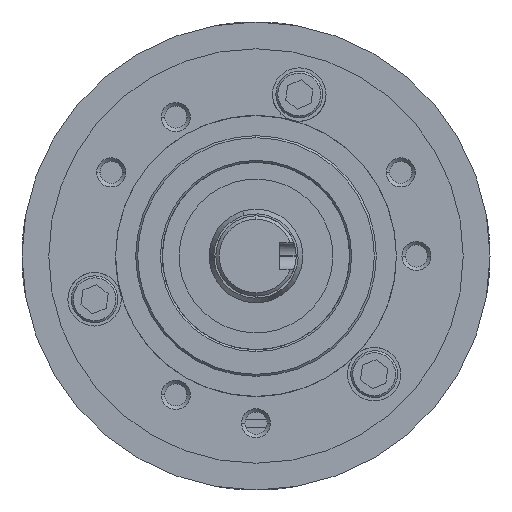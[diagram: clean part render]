
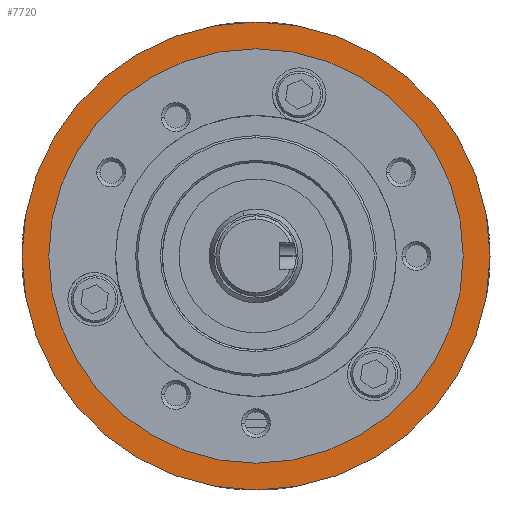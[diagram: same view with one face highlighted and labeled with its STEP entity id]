
A CAD part, left-side view. The second image highlights one B-rep face of the part: STEP entity #7720.
In plain terms, the highlighted planar face has unit normal (-1, 0, 0).
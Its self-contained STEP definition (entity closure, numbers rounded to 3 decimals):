
#2390 = CARTESIAN_POINT ( 'NONE',  ( 4., -119.215, 268.191 ) ) ;
#2829 = CARTESIAN_POINT ( 'NONE',  ( 4., -123.215, 268.191 ) ) ;
#2830 = DIRECTION ( 'NONE',  ( 0., -1., 0. ) ) ;
#2831 = DIRECTION ( 'NONE',  ( 1., 0., 0. ) ) ;
#2832 = CARTESIAN_POINT ( 'NONE',  ( 4., -88.215, 268.191 ) ) ;
#2833 = AXIS2_PLACEMENT_3D ( 'NONE', #2832, #2831, #2830 ) ;
#2838 = CIRCLE ( 'NONE', #2833, 35. ) ;
#2872 = CARTESIAN_POINT ( 'NONE',  ( 4., -53.215, 268.191 ) ) ;
#2879 = CARTESIAN_POINT ( 'NONE',  ( 4., -57.215, 268.191 ) ) ;
#2913 = CIRCLE ( 'NONE', #2973, 31. ) ;
#2970 = DIRECTION ( 'NONE',  ( 0., -1., 0. ) ) ;
#2971 = DIRECTION ( 'NONE',  ( 1., 0., 0. ) ) ;
#2972 = CARTESIAN_POINT ( 'NONE',  ( 4., -88.215, 268.191 ) ) ;
#2973 = AXIS2_PLACEMENT_3D ( 'NONE', #2972, #2971, #2970 ) ;
#5890 = FACE_BOUND ( 'NONE', #7728, .T. ) ;
#5894 = FACE_OUTER_BOUND ( 'NONE', #7726, .T. ) ;
#5898 = AXIS2_PLACEMENT_3D ( 'NONE', #5943, #5956, #5955 ) ;
#5900 = PLANE ( 'NONE',  #5898 ) ;
#5943 = CARTESIAN_POINT ( 'NONE',  ( 4., -88.215, 299.191 ) ) ;
#5945 = CARTESIAN_POINT ( 'NONE',  ( 4., -88.215, 268.191 ) ) ;
#5955 = DIRECTION ( 'NONE',  ( 0., -1., 0. ) ) ;
#5956 = DIRECTION ( 'NONE',  ( 1., 0., 0. ) ) ;
#5981 = DIRECTION ( 'NONE',  ( 0., -1., 0. ) ) ;
#5982 = DIRECTION ( 'NONE',  ( 1., 0., 0. ) ) ;
#5983 = AXIS2_PLACEMENT_3D ( 'NONE', #5945, #5982, #5981 ) ;
#5984 = CIRCLE ( 'NONE', #5983, 31. ) ;
#6282 = CARTESIAN_POINT ( 'NONE',  ( 4., -88.215, 268.191 ) ) ;
#6298 = DIRECTION ( 'NONE',  ( 0., -1., 0. ) ) ;
#6299 = DIRECTION ( 'NONE',  ( 1., 0., 0. ) ) ;
#6300 = AXIS2_PLACEMENT_3D ( 'NONE', #6282, #6299, #6298 ) ;
#6301 = CIRCLE ( 'NONE', #6300, 35. ) ;
#7720 = ADVANCED_FACE ( 'NONE', ( #5894, #5890 ), #5900, .F. ) ;
#7726 = EDGE_LOOP ( 'NONE', ( #7727, #7738 ) ) ;
#7727 = ORIENTED_EDGE ( 'NONE', *, *, #8707, .F. ) ;
#7728 = EDGE_LOOP ( 'NONE', ( #7739, #7740 ) ) ;
#7738 = ORIENTED_EDGE ( 'NONE', *, *, #7795, .F. ) ;
#7739 = ORIENTED_EDGE ( 'NONE', *, *, #8754, .T. ) ;
#7740 = ORIENTED_EDGE ( 'NONE', *, *, #7741, .T. ) ;
#7741 = EDGE_CURVE ( 'NONE', #8718, #8561, #5984, .T. ) ;
#7795 = EDGE_CURVE ( 'NONE', #8722, #8708, #6301, .T. ) ;
#8561 = VERTEX_POINT ( 'NONE', #2390 ) ;
#8707 = EDGE_CURVE ( 'NONE', #8708, #8722, #2838, .T. ) ;
#8708 = VERTEX_POINT ( 'NONE', #2829 ) ;
#8718 = VERTEX_POINT ( 'NONE', #2879 ) ;
#8722 = VERTEX_POINT ( 'NONE', #2872 ) ;
#8754 = EDGE_CURVE ( 'NONE', #8561, #8718, #2913, .T. ) ;
